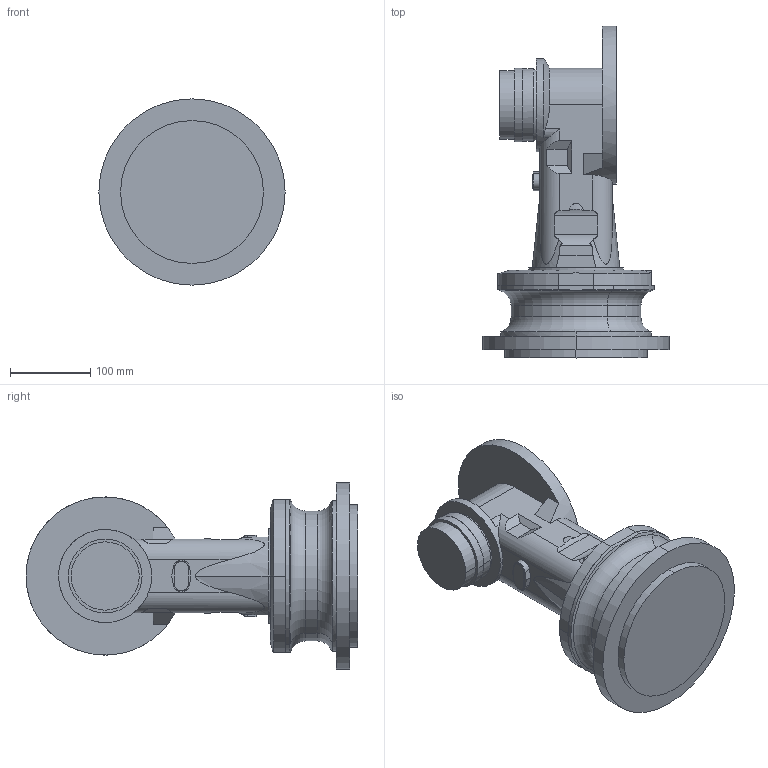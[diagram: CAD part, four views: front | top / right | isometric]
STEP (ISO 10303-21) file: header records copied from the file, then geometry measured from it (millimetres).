
FILE_DESCRIPTION(('CATIA V5 STEP Exchange'),'2;1');
FILE_NAME('Z:\ROBOT\CATIA06\products\SRA\SRA240L-01\Assy\FTP\catia\SRA240L-01_J4.stp','2023-04-11T09:12:36+00:00',('none'),('none'),'CATIA Version 5-6 Release 2016 SP3','CATIA V5 STEP AP203','none');
FILE_SCHEMA(('CONFIG_CONTROL_DESIGN'));
Length unit declared in the file: millimetre
Products named in the file (1): SRA240L-01_J4
Bounding box: 232 x 413.5 x 232 mm (x, y, z)
Volume: 5615917.9 mm3; surface area: 368833.8 mm2
Topology: 2 solids, 2 shells, 143 faces, 453 edges, 326 vertices
Faces by surface type: plane 67, cylinder 58, cone 14, torus 4
Entity records: 5733 total; most frequent: CARTESIAN_POINT 1948, ORIENTED_EDGE 906, DIRECTION 572, EDGE_CURVE 453, VERTEX_POINT 326, AXIS2_PLACEMENT_3D 252, VECTOR 188, LINE 188
